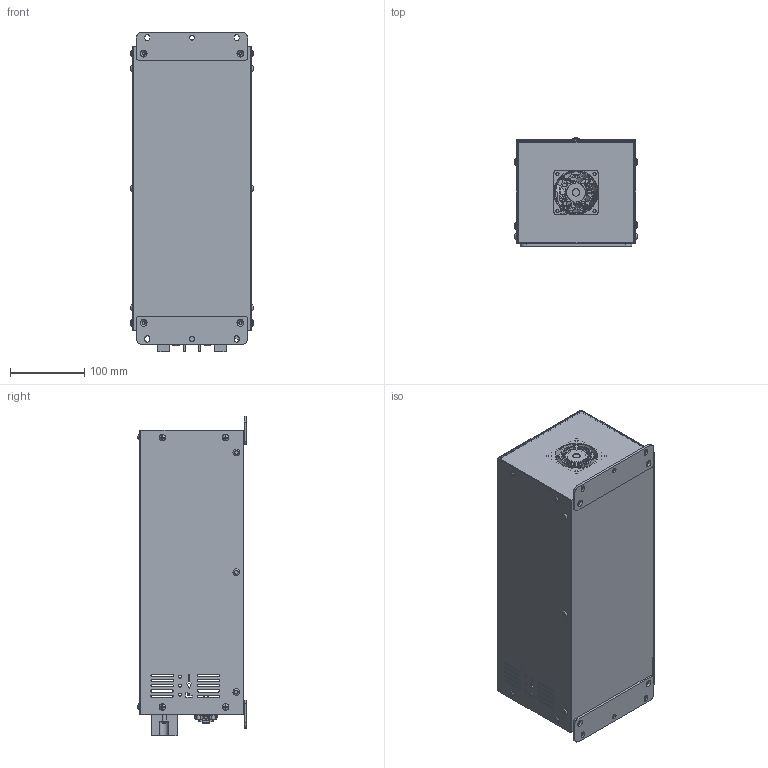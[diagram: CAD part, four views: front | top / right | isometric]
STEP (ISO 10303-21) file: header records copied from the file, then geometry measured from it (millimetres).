
FILE_DESCRIPTION(/* description */ ('','CAx-IF Rec.Pracs.---Representation and Presentation of Product Manufacturing Information (PMI)---4.0---2014-10-13'),/* implementation_level */ '2;1');
FILE_NAME(/* name */ 'H:\04_배터리_전기종\고부하용 배터리 케이스_3D\[NEW] X2COM 고객용\X2COM.stp',/* time_stamp */ '2021-12-10T16:09:14+09:00',/* author */ ('jjang'),/* organization */ ('Tabos'),/* preprocessor_version */ 'ST-DEVELOPER v18.1',/* originating_system */ 'Autodesk Inventor 2021',/* authorisation */ '');
FILE_SCHEMA (('AP242_MANAGED_MODEL_BASED_3D_ENGINEERING_MIM_LF { 1 0 10303 442 1 1 4 }'));
Products named in the file (3): X2COM; BRACKET; CASE ASSEMBLY
Assembly tree (3 placements, depth 2):
  X2COM
    BRACKET  x2
    CASE ASSEMBLY
Bounding box: 165.84 x 145.97 x 430 mm (x, y, z)
Volume: 514548.2 mm3; surface area: 648770.2 mm2
Topology: 9 solids, 9 shells, 4455 faces, 12263 edges, 8206 vertices
Faces by surface type: plane 2288, bspline 1358, cylinder 709, torus 72, cone 15, sphere 13
Full cylindrical faces by diameter (mm): 0.609 x1, 0.61 x27, 0.635 x9, 0.9 x2, 1.397 x9, 2.286 x9, 2.8 x8, 2.957 x4, 3 x2, 3.048 x4, 3.6 x6, 3.783 x2, 3.8 x22, 3.9 x2, 4 x13, 4.3 x4, 4.5 x6, 5 x11, 5.3 x12, 5.4 x2, 5.429 x2, 6 x2, 6.082 x1, 6.6 x2, 8 x1, 8.8 x10, 9.2 x2, 10 x4, 25.4 x1, 55.4 x1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
Entity records: 164872 total; most frequent: CARTESIAN_POINT 55014, ORIENTED_EDGE 24278, DIRECTION 17728, EDGE_CURVE 12139, VERTEX_POINT 8068, LINE 7238, VECTOR 7238, AXIS2_PLACEMENT_3D 5245
